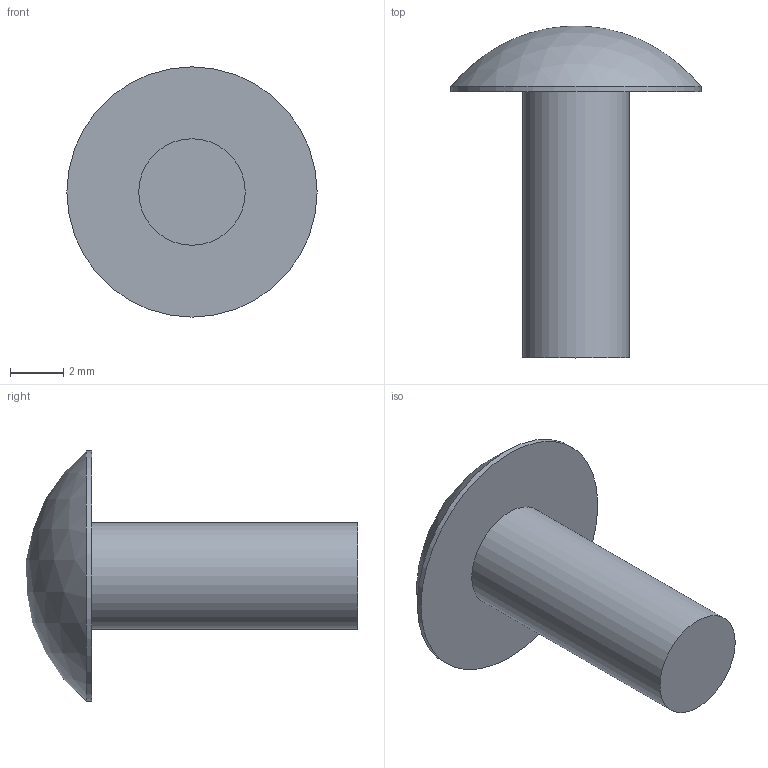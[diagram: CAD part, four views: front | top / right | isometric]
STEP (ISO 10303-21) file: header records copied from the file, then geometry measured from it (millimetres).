
FILE_DESCRIPTION((''),'2;1');
FILE_NAME('C:\Documents and Settings\AMS8\デスクトップ\TSB-04-10.stp','2015-09-07T09:00:36',('AMS8'),(''),'Autodesk Inventor 2008','Autodesk Inventor 2008','');
FILE_SCHEMA(('AUTOMOTIVE_DESIGN { 1 0 10303 214 1 1 1 1 }'));
Length unit declared in the file: millimetre
Products named in the file (1): TSB-04-10
Bounding box: 9.4 x 12.47 x 9.4 mm (x, y, z)
Volume: 225.7 mm3; surface area: 287 mm2
Topology: 1 solids, 1 shells, 5 faces, 6 edges, 4 vertices
Faces by surface type: plane 2, cylinder 2, sphere 1
Full cylindrical faces by diameter (mm): 4 x1, 9.4 x1
Entity records: 134 total; most frequent: DIRECTION 20, CARTESIAN_POINT 14, AXIS2_PLACEMENT_3D 10, ORIENTED_EDGE 8, EDGE_LOOP 8, STYLED_ITEM 6, FACE_OUTER_BOUND 5, ADVANCED_FACE 5
